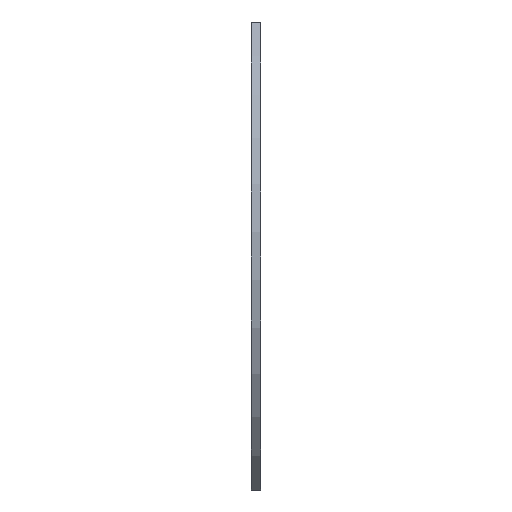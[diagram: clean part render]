
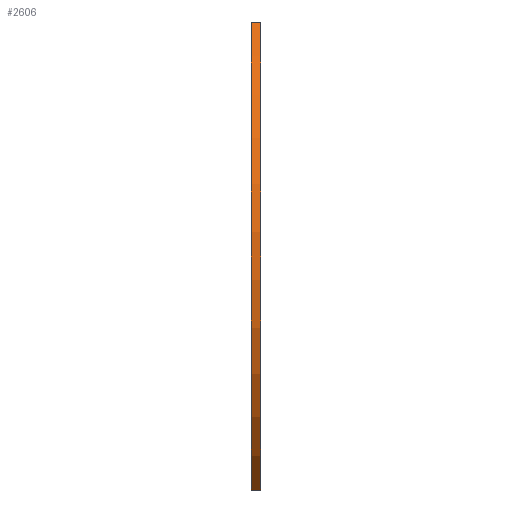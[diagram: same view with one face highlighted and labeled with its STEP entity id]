
A CAD part, left-side view. The second image highlights one B-rep face of the part: STEP entity #2606.
In plain terms, the highlighted cylindrical face has radius 100 mm (diameter 200 mm), a partial arc.
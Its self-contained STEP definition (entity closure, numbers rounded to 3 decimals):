
#153 = VERTEX_POINT('',#154);
#154 = CARTESIAN_POINT('',(-63.804,0.,-77.));
#160 = EDGE_CURVE('',#161,#153,#163,.T.);
#161 = VERTEX_POINT('',#162);
#162 = CARTESIAN_POINT('',(-63.804,0.,77.));
#163 = CIRCLE('',#164,100.);
#164 = AXIS2_PLACEMENT_3D('',#165,#166,#167);
#165 = CARTESIAN_POINT('',(0.,0.,0.));
#166 = DIRECTION('',(0.,-1.,0.));
#167 = DIRECTION('',(1.,0.,0.));
#1257 = VERTEX_POINT('',#1258);
#1258 = CARTESIAN_POINT('',(-63.804,-3.,-77.));
#1264 = EDGE_CURVE('',#1265,#1257,#1267,.T.);
#1265 = VERTEX_POINT('',#1266);
#1266 = CARTESIAN_POINT('',(-63.804,-3.,77.));
#1267 = CIRCLE('',#1268,100.);
#1268 = AXIS2_PLACEMENT_3D('',#1269,#1270,#1271);
#1269 = CARTESIAN_POINT('',(0.,-3.,0.));
#1270 = DIRECTION('',(0.,-1.,0.));
#1271 = DIRECTION('',(1.,0.,0.));
#2577 = EDGE_CURVE('',#153,#1257,#2578,.T.);
#2578 = LINE('',#2579,#2580);
#2579 = CARTESIAN_POINT('',(-63.804,0.,-77.));
#2580 = VECTOR('',#2581,1.);
#2581 = DIRECTION('',(0.,-1.,0.));
#2606 = ADVANCED_FACE('',(#2607),#2618,.T.);
#2607 = FACE_BOUND('',#2608,.F.);
#2608 = EDGE_LOOP('',(#2609,#2615,#2616,#2617));
#2609 = ORIENTED_EDGE('',*,*,#2610,.T.);
#2610 = EDGE_CURVE('',#161,#1265,#2611,.T.);
#2611 = LINE('',#2612,#2613);
#2612 = CARTESIAN_POINT('',(-63.804,0.,77.));
#2613 = VECTOR('',#2614,1.);
#2614 = DIRECTION('',(0.,-1.,0.));
#2615 = ORIENTED_EDGE('',*,*,#1264,.T.);
#2616 = ORIENTED_EDGE('',*,*,#2577,.F.);
#2617 = ORIENTED_EDGE('',*,*,#160,.F.);
#2618 = CYLINDRICAL_SURFACE('',#2619,100.);
#2619 = AXIS2_PLACEMENT_3D('',#2620,#2621,#2622);
#2620 = CARTESIAN_POINT('',(0.,0.,0.));
#2621 = DIRECTION('',(0.,1.,0.));
#2622 = DIRECTION('',(1.,0.,0.));
